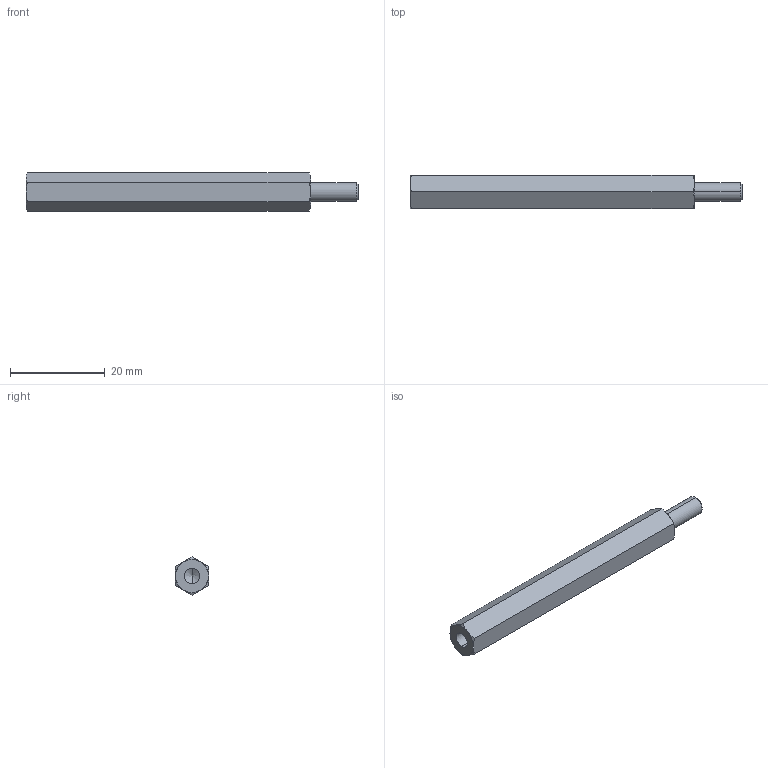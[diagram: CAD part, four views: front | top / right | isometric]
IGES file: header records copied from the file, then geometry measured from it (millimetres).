
Start section: SolidWorks IGES file using analytic representation for surfaces
Global section: file name: C:\Users\render1\Desktop\P0185_IGES\P0185.04-60.igs; native system: SolidWorks 2009; preprocessor: SolidWorks 2009; author: render1; date: 130627.112254; units: millimetre
Bounding box: 70 x 7 x 8.08 mm (x, y, z)
Surface area: 1763.7 mm2 (no closed solid volume)
Topology: 0 solids, 0 shells, 29 faces, 320 edges, 318 vertices
Faces by surface type: revolution 20, bspline 9
